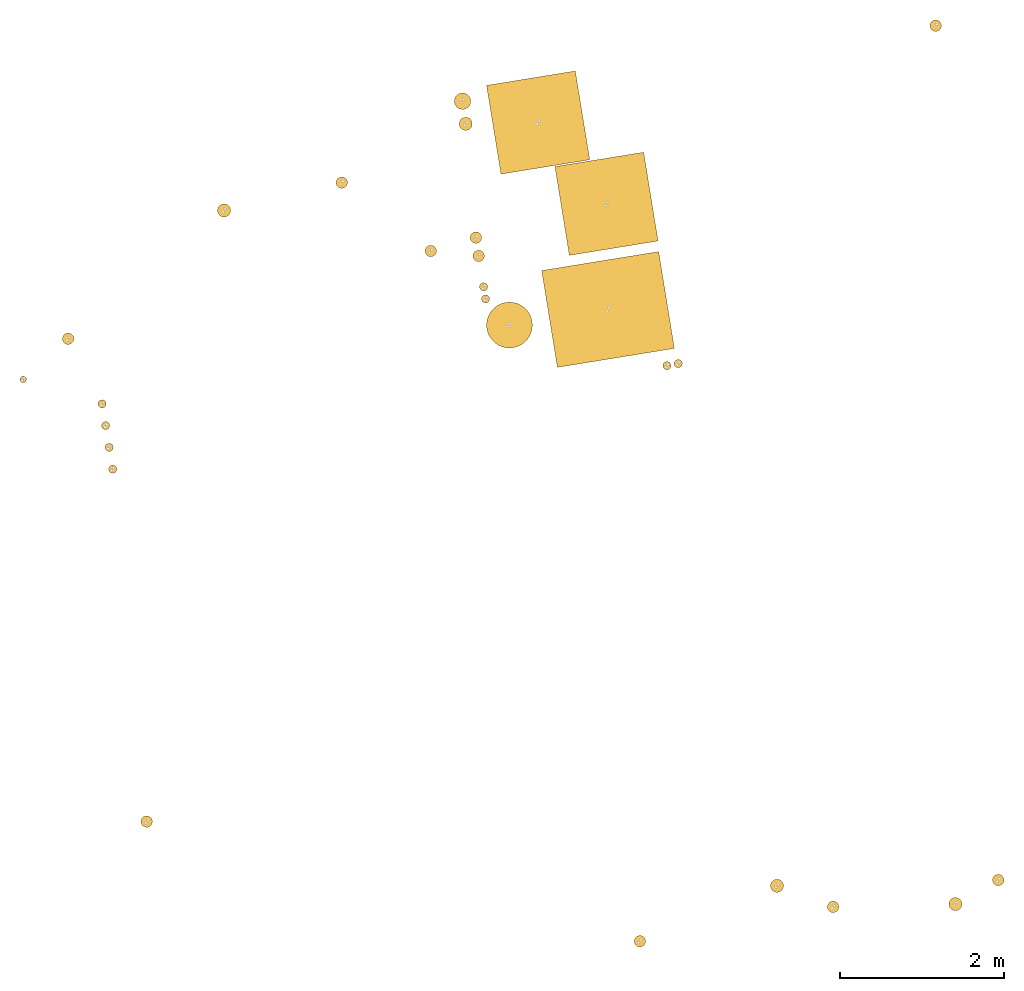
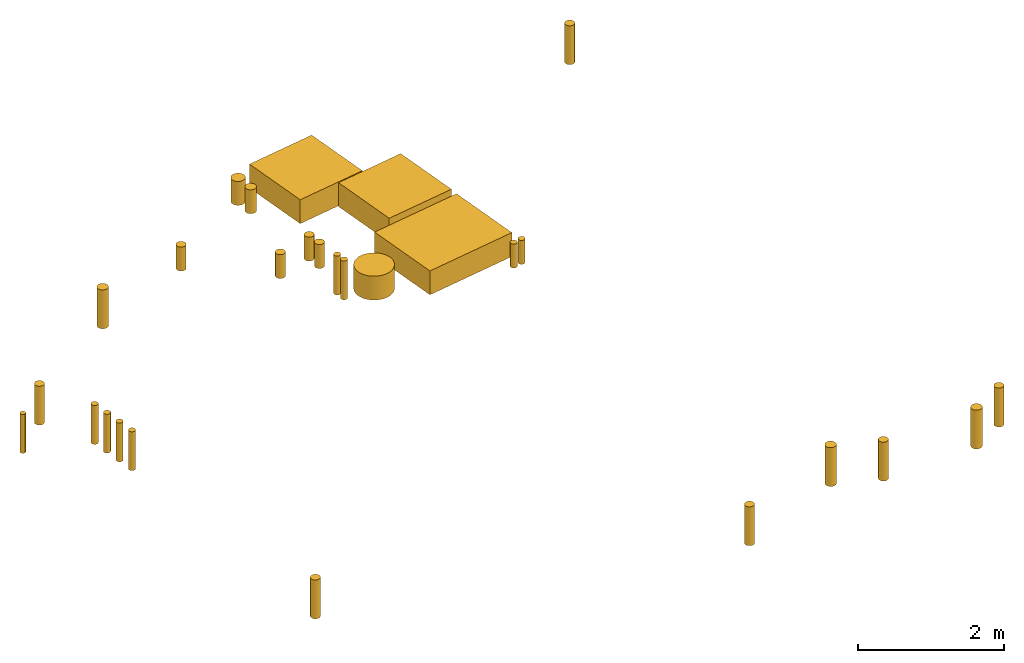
# One storey, part 4 of 4: 28 windows.
"""IFC2X3 building model written with IfcOpenShell, lengths in millimetres."""

from ifc_helpers import new_model, entity, si_unit, converted_unit, derived_unit, direction, frame, frame_2d, origin, origin_with_axes, origin_2d_with_axis, place, context, subcontext, project, spatial, rectangle, circle, extrude, source, transform, mapped, material, type_object, element, save


model = new_model("IFC2X3")

# Units and contexts
model_context = context("Model", 3, precision=0.01, world=origin(), true_north=direction((6.12323399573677e-17, 1.0)))
plan_context = context("Plan", 3, precision=1e-05, world=origin_with_axes())
body_context = subcontext(model_context, "Body", "Model", "MODEL_VIEW")
ifc_project = project(units=[converted_unit("PLANEANGLEUNIT", "DEGREE", entity("IfcPositiveLengthMeasure", 0.0174532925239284), si_unit("PLANEANGLEUNIT", "RADIAN"), dimensions=[0, 0, 0, 0, 0, 0, 0]), si_unit("AREAUNIT", "SQUARE_METRE"), si_unit("LENGTHUNIT", "METRE", prefix="MILLI"), si_unit("MASSUNIT", "GRAM", prefix="KILO"), si_unit("POWERUNIT", "WATT"), si_unit("PRESSUREUNIT", "PASCAL", prefix="KILO"), si_unit("FORCEUNIT", "NEWTON", prefix="KILO"), si_unit("ELECTRICVOLTAGEUNIT", "VOLT"), si_unit("ELECTRICCURRENTUNIT", "AMPERE"), si_unit("THERMODYNAMICTEMPERATUREUNIT", "DEGREE_CELSIUS"), si_unit("TIMEUNIT", "SECOND"), si_unit("VOLUMEUNIT", "CUBIC_METRE"), derived_unit("LINEARVELOCITYUNIT", [(si_unit("LENGTHUNIT", "METRE"), 1), (si_unit("TIMEUNIT", "SECOND"), -1)]), derived_unit("VOLUMETRICFLOWRATEUNIT", [(si_unit("VOLUMEUNIT", "CUBIC_METRE"), 1), (si_unit("TIMEUNIT", "SECOND"), -1)]), derived_unit("THERMALTRANSMITTANCEUNIT", [(si_unit("POWERUNIT", "WATT"), 1), (si_unit("THERMODYNAMICTEMPERATUREUNIT", "KELVIN"), -1), (si_unit("AREAUNIT", "SQUARE_METRE"), -1)]), derived_unit("SOUNDPRESSUREUNIT", [(si_unit("PRESSUREUNIT", "PASCAL"), 1)])], contexts=[model_context, plan_context])

# Site, building, storey
site_placement = place(None, frame((-0.00071070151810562, 0.00438415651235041, 0.0), z_axis=(0.0, 0.0, 1.0), x_axis=(-0.160236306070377, 0.987078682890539, 0.0)))
site = spatial("IfcSite", under=ifc_project, at=site_placement, Name="Default", CompositionType="ELEMENT")
building_placement = place(site_placement, origin_with_axes())
building = spatial("IfcBuilding", under=site, at=building_placement, CompositionType="ELEMENT")
storey_placement = place(building_placement, frame((0.0, 0.0, 50999.9999999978), z_axis=(0.0, 0.0, 1.0), x_axis=(1.0, 0.0, 0.0)))
storey = spatial("IfcBuildingStorey", under=building, at=storey_placement, Name="Nivå D", CompositionType="ELEMENT", Elevation=50999.9999999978)

# Windows
ifc_material = material(Name="Utsparing")
window_style_1 = type_object("IfcWindowStyle", Name="Hullboring Sirkulær:V", ConstructionType="NOTDEFINED", OperationType="NOTDEFINED", ParameterTakesPrecedence=False, Sizeable=False, material=ifc_material)
shared_shape_1 = source(origin(), body_context, "Body", "SweptSolid", [
    extrude(circle(Radius=80.0, at=frame_2d((0.0, -1.29243565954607e-13), x_axis=(1.0, 0.0))), frame((0.0, 0.0, 0.0), z_axis=(0.0, 0.0, 1.0), x_axis=(-1.0, 0.0, 0.0)), (0.0, 0.0, 1.0), 399.999999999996),
])
window_1_placement = place(storey_placement, frame((779143.959611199, -594779.187793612, -400.0), z_axis=(0.0, 0.0, 1.0), x_axis=(1.0, 0.0, 0.0)))
element("IfcWindow", 1, at=window_1_placement, inside=storey, type_object=window_style_1, material=ifc_material, Name="Hullboring Sirkulær:V", ObjectType="Hullboring Sirkulær:V", OverallHeight=200.000000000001, OverallWidth=160.000000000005, context=body_context, shape_type="MappedRepresentation", body=[
    mapped(shared_shape_1, transform((0.0, 0.0, 0.0), scale=1.0)),
])
window_style_2 = type_object("IfcWindowStyle", Name="Utsparing Rektangulær:V", ConstructionType="NOTDEFINED", OperationType="NOTDEFINED", ParameterTakesPrecedence=False, Sizeable=False, material=ifc_material)
shared_shape_2 = source(origin(), body_context, "Body", "SweptSolid", [
    extrude(rectangle(XDim=1100.0, YDim=1100.0, at=origin_2d_with_axis()), frame((0.0, 0.0, 0.0), z_axis=(0.0, 0.0, 1.0), x_axis=(-1.0, 0.0, 0.0)), (0.0, 0.0, 1.0), 399.999999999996),
])
window_2_placement = place(storey_placement, frame((777903.00966992, -596321.533015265, -400.0), z_axis=(0.0, 0.0, 1.0), x_axis=(1.0, 0.0, 0.0)))
element("IfcWindow", 2, at=window_2_placement, inside=storey, type_object=window_style_2, material=ifc_material, Name="Utsparing Rektangulær:V", ObjectType="Utsparing Rektangulær:V", OverallHeight=1200.0, OverallWidth=1200.0, context=body_context, shape_type="MappedRepresentation", body=[
    mapped(shared_shape_2, transform((0.0, 0.0, 0.0), scale=1.0)),
])
window_style_3 = type_object("IfcWindowStyle", Name="Utsparing Rektangulær:V", ConstructionType="NOTDEFINED", OperationType="NOTDEFINED", ParameterTakesPrecedence=False, Sizeable=False, material=ifc_material)
window_3_placement = place(storey_placement, frame((779017.739633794, -595655.667976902, -400.0), z_axis=(0.0, 0.0, 1.0), x_axis=(1.0, 0.0, 0.0)))
element("IfcWindow", 3, at=window_3_placement, inside=storey, type_object=window_style_3, material=ifc_material, Name="Utsparing Rektangulær:V", ObjectType="Utsparing Rektangulær:V", OverallHeight=1200.0, OverallWidth=1200.0, context=body_context, shape_type="MappedRepresentation", body=[
    mapped(shared_shape_2, transform((0.0, 0.0, 0.0), scale=1.0)),
])
window_style_4 = type_object("IfcWindowStyle", Name="Hullboring Sirkulær:V", ConstructionType="NOTDEFINED", OperationType="NOTDEFINED", ParameterTakesPrecedence=False, Sizeable=False, material=ifc_material)
shared_shape_3 = source(origin(), body_context, "Body", "SweptSolid", [
    extrude(circle(Radius=50.0, at=frame_2d((0.0, -8.07772287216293e-14), x_axis=(1.0, 0.0))), frame((0.0, 0.0, 0.0), z_axis=(0.0, 0.0, 1.0), x_axis=(-1.0, 0.0, 0.0)), (0.0, 0.0, 1.0), 399.999999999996),
])
window_4_placement = place(storey_placement, frame((775831.085841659, -596733.758663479, -400.0), z_axis=(0.0, 0.0, 1.0), x_axis=(1.0, 0.0, 0.0)))
element("IfcWindow", 4, at=window_4_placement, inside=storey, type_object=window_style_4, material=ifc_material, Name="Hullboring Sirkulær:V", ObjectType="Hullboring Sirkulær:V", OverallHeight=200.000000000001, OverallWidth=100.000000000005, context=body_context, shape_type="MappedRepresentation", body=[
    mapped(shared_shape_3, transform((0.0, 0.0, 0.0), scale=1.0)),
])
window_style_5 = type_object("IfcWindowStyle", Name="Hullboring Sirkulær:V", ConstructionType="NOTDEFINED", OperationType="NOTDEFINED", ParameterTakesPrecedence=False, Sizeable=False, material=ifc_material)
window_5_placement = place(storey_placement, frame((775833.799335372, -596873.866409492, -400.0), z_axis=(0.0, 0.0, 1.0), x_axis=(1.0, 0.0, 0.0)))
element("IfcWindow", 5, at=window_5_placement, inside=storey, type_object=window_style_5, material=ifc_material, Name="Hullboring Sirkulær:V", ObjectType="Hullboring Sirkulær:V", OverallHeight=200.000000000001, OverallWidth=100.000000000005, context=body_context, shape_type="MappedRepresentation", body=[
    mapped(shared_shape_3, transform((0.0, 0.0, 0.0), scale=1.0)),
])
window_style_6 = type_object("IfcWindowStyle", Name="Hullboring Sirkulær:V", ConstructionType="NOTDEFINED", OperationType="NOTDEFINED", ParameterTakesPrecedence=False, Sizeable=False, material=ifc_material)
shared_shape_4 = source(origin(), body_context, "Body", "SweptSolid", [
    extrude(circle(Radius=70.0, at=frame_2d((0.0, -1.13088120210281e-13), x_axis=(1.0, 0.0))), frame((0.0, 0.0, 0.0), z_axis=(0.0, 0.0, 1.0), x_axis=(-1.0, 0.0, 0.0)), (0.0, 0.0, 1.0), 399.999999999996),
])
window_6_placement = place(storey_placement, frame((777524.586788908, -594676.080003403, -400.0), z_axis=(0.0, 0.0, 1.0), x_axis=(1.0, 0.0, 0.0)))
element("IfcWindow", 6, at=window_6_placement, inside=storey, type_object=window_style_6, material=ifc_material, Name="Hullboring Sirkulær:V", ObjectType="Hullboring Sirkulær:V", OverallHeight=200.000000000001, OverallWidth=140.000000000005, context=body_context, shape_type="MappedRepresentation", body=[
    mapped(shared_shape_4, transform((0.0, 0.0, 0.0), scale=1.0)),
])
window_style_7 = type_object("IfcWindowStyle", Name="Hullboring Sirkulær:V", ConstructionType="NOTDEFINED", OperationType="NOTDEFINED", ParameterTakesPrecedence=False, Sizeable=False, material=ifc_material)
window_7_placement = place(storey_placement, frame((777750.860958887, -594678.826649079, -400.0), z_axis=(0.0, 0.0, 1.0), x_axis=(1.0, 0.0, 0.0)))
element("IfcWindow", 7, at=window_7_placement, inside=storey, type_object=window_style_7, material=ifc_material, Name="Hullboring Sirkulær:V", ObjectType="Hullboring Sirkulær:V", OverallHeight=200.000000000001, OverallWidth=140.000000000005, context=body_context, shape_type="MappedRepresentation", body=[
    mapped(shared_shape_4, transform((0.0, 0.0, 0.0), scale=1.0)),
])
window_style_8 = type_object("IfcWindowStyle", Name="Hullboring Sirkulær:V", ConstructionType="NOTDEFINED", OperationType="NOTDEFINED", ParameterTakesPrecedence=False, Sizeable=False, material=ifc_material)
window_8_placement = place(storey_placement, frame((778677.619644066, -593167.980498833, -400.0), z_axis=(0.0, 0.0, 1.0), x_axis=(1.0, 0.0, 0.0)))
element("IfcWindow", 8, at=window_8_placement, inside=storey, type_object=window_style_8, material=ifc_material, Name="Hullboring Sirkulær:V", ObjectType="Hullboring Sirkulær:V", OverallHeight=200.000000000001, OverallWidth=140.000000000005, context=body_context, shape_type="MappedRepresentation", body=[
    mapped(shared_shape_4, transform((0.0, 0.0, 0.0), scale=1.0)),
])
window_style_9 = type_object("IfcWindowStyle", Name="Hullboring Sirkulær:V", ConstructionType="NOTDEFINED", OperationType="NOTDEFINED", ParameterTakesPrecedence=False, Sizeable=False, material=ifc_material)
window_9_placement = place(storey_placement, frame((777677.619644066, -594107.980498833, -400.0), z_axis=(0.0, 0.0, 1.0), x_axis=(1.0, 0.0, 0.0)))
element("IfcWindow", 9, at=window_9_placement, inside=storey, type_object=window_style_9, material=ifc_material, Name="Hullboring Sirkulær:V", ObjectType="Hullboring Sirkulær:V", OverallHeight=200.000000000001, OverallWidth=140.000000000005, context=body_context, shape_type="MappedRepresentation", body=[
    mapped(shared_shape_4, transform((0.0, 0.0, 0.0), scale=1.0)),
])
window_style_10 = type_object("IfcWindowStyle", Name="Hullboring Sirkulær:V", ConstructionType="NOTDEFINED", OperationType="NOTDEFINED", ParameterTakesPrecedence=False, Sizeable=False, material=ifc_material)
shared_shape_5 = source(origin(), body_context, "Body", "SweptSolid", [
    extrude(circle(Radius=100.0, at=frame_2d((0.0, -1.61554457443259e-13), x_axis=(1.0, 0.0))), frame((0.0, 0.0, 0.0), z_axis=(0.0, 0.0, 1.0), x_axis=(-1.0, 0.0, 0.0)), (0.0, 0.0, 1.0), 399.999999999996),
])
window_10_placement = place(storey_placement, frame((779423.897507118, -594785.084778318, -400.0), z_axis=(0.0, 0.0, 1.0), x_axis=(1.0, 0.0, 0.0)))
element("IfcWindow", 10, at=window_10_placement, inside=storey, type_object=window_style_10, material=ifc_material, Name="Hullboring Sirkulær:V", ObjectType="Hullboring Sirkulær:V", OverallHeight=200.000000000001, OverallWidth=200.000000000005, context=body_context, shape_type="MappedRepresentation", body=[
    mapped(shared_shape_5, transform((0.0, 0.0, 0.0), scale=1.0)),
])
window_style_11 = type_object("IfcWindowStyle", Name="Utsparing Sirkulær:V", ConstructionType="NOTDEFINED", OperationType="NOTDEFINED", ParameterTakesPrecedence=False, Sizeable=False, material=ifc_material)
shared_shape_6 = source(origin(), body_context, "Body", "SweptSolid", [
    extrude(circle(Radius=280.0, at=frame_2d((0.0, -4.52352480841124e-13), x_axis=(1.0, 0.0))), frame((0.0, 0.0, 0.0), z_axis=(0.0, 0.0, 1.0), x_axis=(-1.0, 0.0, 0.0)), (0.0, 0.0, 1.0), 399.999999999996),
])
window_11_placement = place(storey_placement, frame((776629.566038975, -594912.580498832, -400.0), z_axis=(0.0, 0.0, 1.0), x_axis=(1.0, 0.0, 0.0)))
element("IfcWindow", 11, at=window_11_placement, inside=storey, type_object=window_style_11, material=ifc_material, Name="Utsparing Sirkulær:V", ObjectType="Utsparing Sirkulær:V", OverallHeight=560.0, OverallWidth=560.000000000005, context=body_context, shape_type="MappedRepresentation", body=[
    mapped(shared_shape_6, transform((0.0, 0.0, 0.0), scale=1.0)),
])
window_style_12 = type_object("IfcWindowStyle", Name="Utsparing Rektangulær:V", ConstructionType="NOTDEFINED", OperationType="NOTDEFINED", ParameterTakesPrecedence=False, Sizeable=False, material=ifc_material)
shared_shape_7 = source(origin(), body_context, "Body", "SweptSolid", [
    extrude(rectangle(XDim=1200.0, YDim=1450.0, at=origin_2d_with_axis()), frame((0.0, 0.0, 0.0), z_axis=(0.0, 0.0, 1.0), x_axis=(-1.0, 0.0, 0.0)), (0.0, 0.0, 1.0), 399.999999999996),
])
window_12_placement = place(storey_placement, frame((776624.566038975, -596132.983765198, -400.0), z_axis=(0.0, 0.0, 1.0), x_axis=(1.0, 0.0, 0.0)))
element("IfcWindow", 12, at=window_12_placement, inside=storey, type_object=window_style_12, material=ifc_material, Name="Utsparing Rektangulær:V", ObjectType="Utsparing Rektangulær:V", OverallHeight=1550.0, OverallWidth=1300.0, context=body_context, shape_type="MappedRepresentation", body=[
    mapped(shared_shape_7, transform((0.0, 0.0, 0.0), scale=1.0)),
])
window_style_13 = type_object("IfcWindowStyle", Name="Hullboring Sirkulær:V", ConstructionType="NOTDEFINED", OperationType="NOTDEFINED", ParameterTakesPrecedence=False, Sizeable=False, material=ifc_material)
shared_shape_8 = source(origin(), body_context, "Body", "SweptSolid", [
    extrude(circle(Radius=50.0, at=frame_2d((0.0, -8.07772287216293e-14), x_axis=(1.0, 0.0))), frame((0.0, 0.0, 0.0), z_axis=(0.0, 0.0, 1.0), x_axis=(-1.0, 0.0, 0.0)), (0.0, 0.0, 1.0), 649.999999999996),
])
window_13_placement = place(storey_placement, frame((775667.342676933, -589841.757061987, -650.0), z_axis=(0.0, 0.0, 1.0), x_axis=(1.0, 0.0, 0.0)))
element("IfcWindow", 13, at=window_13_placement, inside=storey, type_object=window_style_13, material=ifc_material, Name="Hullboring Sirkulær:V", ObjectType="Hullboring Sirkulær:V", OverallHeight=200.000000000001, OverallWidth=100.000000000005, context=body_context, shape_type="MappedRepresentation", body=[
    mapped(shared_shape_8, transform((0.0, 0.0, 0.0), scale=1.0)),
])
window_style_14 = type_object("IfcWindowStyle", Name="Hullboring Sirkulær:V", ConstructionType="NOTDEFINED", OperationType="NOTDEFINED", ParameterTakesPrecedence=False, Sizeable=False, material=ifc_material)
window_14_placement = place(storey_placement, frame((775937.342676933, -589841.757061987, -650.0), z_axis=(0.0, 0.0, 1.0), x_axis=(1.0, 0.0, 0.0)))
element("IfcWindow", 14, at=window_14_placement, inside=storey, type_object=window_style_14, material=ifc_material, Name="Hullboring Sirkulær:V", ObjectType="Hullboring Sirkulær:V", OverallHeight=200.000000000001, OverallWidth=100.000000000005, context=body_context, shape_type="MappedRepresentation", body=[
    mapped(shared_shape_8, transform((0.0, 0.0, 0.0), scale=1.0)),
])
window_style_15 = type_object("IfcWindowStyle", Name="Hullboring Sirkulær:V", ConstructionType="NOTDEFINED", OperationType="NOTDEFINED", ParameterTakesPrecedence=False, Sizeable=False, material=ifc_material)
window_15_placement = place(storey_placement, frame((776207.342676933, -589841.757061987, -650.0), z_axis=(0.0, 0.0, 1.0), x_axis=(1.0, 0.0, 0.0)))
element("IfcWindow", 15, at=window_15_placement, inside=storey, type_object=window_style_15, material=ifc_material, Name="Hullboring Sirkulær:V", ObjectType="Hullboring Sirkulær:V", OverallHeight=200.000000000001, OverallWidth=100.000000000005, context=body_context, shape_type="MappedRepresentation", body=[
    mapped(shared_shape_8, transform((0.0, 0.0, 0.0), scale=1.0)),
])
window_style_16 = type_object("IfcWindowStyle", Name="Hullboring Sirkulær:V", ConstructionType="NOTDEFINED", OperationType="NOTDEFINED", ParameterTakesPrecedence=False, Sizeable=False, material=ifc_material)
window_16_placement = place(storey_placement, frame((776477.342676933, -589841.757061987, -650.0), z_axis=(0.0, 0.0, 1.0), x_axis=(1.0, 0.0, 0.0)))
element("IfcWindow", 16, at=window_16_placement, inside=storey, type_object=window_style_16, material=ifc_material, Name="Hullboring Sirkulær:V", ObjectType="Hullboring Sirkulær:V", OverallHeight=200.000000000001, OverallWidth=100.000000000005, context=body_context, shape_type="MappedRepresentation", body=[
    mapped(shared_shape_8, transform((0.0, 0.0, 0.0), scale=1.0)),
])
window_style_17 = type_object("IfcWindowStyle", Name="Hullboring Sirkulær:V", ConstructionType="NOTDEFINED", OperationType="NOTDEFINED", ParameterTakesPrecedence=False, Sizeable=False, material=ifc_material)
window_17_placement = place(storey_placement, frame((777142.266874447, -594676.106302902, -650.0), z_axis=(0.0, 0.0, 1.0), x_axis=(1.0, 0.0, 0.0)))
element("IfcWindow", 17, at=window_17_placement, inside=storey, type_object=window_style_17, material=ifc_material, Name="Hullboring Sirkulær:V", ObjectType="Hullboring Sirkulær:V", OverallHeight=200.000000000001, OverallWidth=100.000000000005, context=body_context, shape_type="MappedRepresentation", body=[
    mapped(shared_shape_8, transform((0.0, 0.0, 0.0), scale=1.0)),
])
window_style_18 = type_object("IfcWindowStyle", Name="Hullboring Sirkulær:V", ConstructionType="NOTDEFINED", OperationType="NOTDEFINED", ParameterTakesPrecedence=False, Sizeable=False, material=ifc_material)
window_18_placement = place(storey_placement, frame((776992.266874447, -594676.106302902, -650.0), z_axis=(0.0, 0.0, 1.0), x_axis=(1.0, 0.0, 0.0)))
element("IfcWindow", 18, at=window_18_placement, inside=storey, type_object=window_style_18, material=ifc_material, Name="Hullboring Sirkulær:V", ObjectType="Hullboring Sirkulær:V", OverallHeight=200.000000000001, OverallWidth=100.000000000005, context=body_context, shape_type="MappedRepresentation", body=[
    mapped(shared_shape_8, transform((0.0, 0.0, 0.0), scale=1.0)),
])
window_style_19 = type_object("IfcWindowStyle", Name="Hullboring Sirkulær:V", ConstructionType="NOTDEFINED", OperationType="NOTDEFINED", ParameterTakesPrecedence=False, Sizeable=False, material=ifc_material)
shared_shape_9 = source(origin(), body_context, "Body", "SweptSolid", [
    extrude(circle(Radius=40.0, at=frame_2d((0.0, -6.46217829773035e-14), x_axis=(1.0, 0.0))), frame((0.0, 0.0, 0.0), z_axis=(0.0, 0.0, 1.0), x_axis=(-1.0, 0.0, 0.0)), (0.0, 0.0, 1.0), 649.999999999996),
])
window_19_placement = place(storey_placement, frame((776926.619644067, -588937.941515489, -650.0), z_axis=(0.0, 0.0, 1.0), x_axis=(1.0, 0.0, 0.0)))
element("IfcWindow", 19, at=window_19_placement, inside=storey, type_object=window_style_19, material=ifc_material, Name="Hullboring Sirkulær:V", ObjectType="Hullboring Sirkulær:V", OverallHeight=200.000000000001, OverallWidth=100.0, context=body_context, shape_type="MappedRepresentation", body=[
    mapped(shared_shape_9, transform((0.0, 0.0, 0.0), scale=1.0)),
])
window_style_20 = type_object("IfcWindowStyle", Name="Hullboring Sirkulær:V", ConstructionType="NOTDEFINED", OperationType="NOTDEFINED", ParameterTakesPrecedence=False, Sizeable=False, material=ifc_material)
shared_shape_10 = source(origin(), body_context, "Body", "SweptSolid", [
    extrude(circle(Radius=70.0, at=frame_2d((0.0, -1.13088120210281e-13), x_axis=(1.0, 0.0))), frame((0.0, 0.0, 0.0), z_axis=(0.0, 0.0, 1.0), x_axis=(-1.0, 0.0, 0.0)), (0.0, 0.0, 1.0), 649.999999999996),
])
window_20_placement = place(storey_placement, frame((777328.713006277, -589559.15871903, -650.0), z_axis=(0.0, 0.0, 1.0), x_axis=(1.0, 0.0, 0.0)))
element("IfcWindow", 20, at=window_20_placement, inside=storey, type_object=window_style_20, material=ifc_material, Name="Hullboring Sirkulær:V", ObjectType="Hullboring Sirkulær:V", OverallHeight=200.000000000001, OverallWidth=140.000000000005, context=body_context, shape_type="MappedRepresentation", body=[
    mapped(shared_shape_10, transform((0.0, 0.0, 0.0), scale=1.0)),
])
window_style_21 = type_object("IfcWindowStyle", Name="Hullboring Sirkulær:V", ConstructionType="NOTDEFINED", OperationType="NOTDEFINED", ParameterTakesPrecedence=False, Sizeable=False, material=ifc_material)
window_21_placement = place(storey_placement, frame((768972.906472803, -599725.208327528, -650.0), z_axis=(0.0, 0.0, 1.0), x_axis=(1.0, 0.0, 0.0)))
element("IfcWindow", 21, at=window_21_placement, inside=storey, type_object=window_style_21, material=ifc_material, Name="Hullboring Sirkulær:V", ObjectType="Hullboring Sirkulær:V", OverallHeight=200.000000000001, OverallWidth=140.000000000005, context=body_context, shape_type="MappedRepresentation", body=[
    mapped(shared_shape_10, transform((0.0, 0.0, 0.0), scale=1.0)),
])
window_style_22 = type_object("IfcWindowStyle", Name="Hullboring Sirkulær:V", ConstructionType="NOTDEFINED", OperationType="NOTDEFINED", ParameterTakesPrecedence=False, Sizeable=False, material=ifc_material)
window_22_placement = place(storey_placement, frame((768972.906472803, -597679.328148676, -650.0), z_axis=(0.0, 0.0, 1.0), x_axis=(1.0, 0.0, 0.0)))
element("IfcWindow", 22, at=window_22_placement, inside=storey, type_object=window_style_22, material=ifc_material, Name="Hullboring Sirkulær:V", ObjectType="Hullboring Sirkulær:V", OverallHeight=200.000000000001, OverallWidth=140.000000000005, context=body_context, shape_type="MappedRepresentation", body=[
    mapped(shared_shape_10, transform((0.0, 0.0, 0.0), scale=1.0)),
])
window_style_23 = type_object("IfcWindowStyle", Name="Hullboring Sirkulær:V", ConstructionType="NOTDEFINED", OperationType="NOTDEFINED", ParameterTakesPrecedence=False, Sizeable=False, material=ifc_material)
window_23_placement = place(storey_placement, frame((768936.484875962, -595279.604525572, -650.0), z_axis=(0.0, 0.0, 1.0), x_axis=(1.0, 0.0, 0.0)))
element("IfcWindow", 23, at=window_23_placement, inside=storey, type_object=window_style_23, material=ifc_material, Name="Hullboring Sirkulær:V", ObjectType="Hullboring Sirkulær:V", OverallHeight=200.000000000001, OverallWidth=140.000000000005, context=body_context, shape_type="MappedRepresentation", body=[
    mapped(shared_shape_10, transform((0.0, 0.0, 0.0), scale=1.0)),
])
window_style_24 = type_object("IfcWindowStyle", Name="Hullboring Sirkulær:V", ConstructionType="NOTDEFINED", OperationType="NOTDEFINED", ParameterTakesPrecedence=False, Sizeable=False, material=ifc_material)
window_24_placement = place(storey_placement, frame((771347.471919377, -589560.758087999, -650.0), z_axis=(0.0, 0.0, 1.0), x_axis=(1.0, 0.0, 0.0)))
element("IfcWindow", 24, at=window_24_placement, inside=storey, type_object=window_style_24, material=ifc_material, Name="Hullboring Sirkulær:V", ObjectType="Hullboring Sirkulær:V", OverallHeight=200.000000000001, OverallWidth=140.000000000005, context=body_context, shape_type="MappedRepresentation", body=[
    mapped(shared_shape_10, transform((0.0, 0.0, 0.0), scale=1.0)),
])
window_style_25 = type_object("IfcWindowStyle", Name="Hullboring Sirkulær:V", ConstructionType="NOTDEFINED", OperationType="NOTDEFINED", ParameterTakesPrecedence=False, Sizeable=False, material=ifc_material)
window_25_placement = place(storey_placement, frame((779407.560606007, -600643.809150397, -650.0), z_axis=(0.0, 0.0, 1.0), x_axis=(1.0, 0.0, 0.0)))
element("IfcWindow", 25, at=window_25_placement, inside=storey, type_object=window_style_25, material=ifc_material, Name="Hullboring Sirkulær:V", ObjectType="Hullboring Sirkulær:V", OverallHeight=200.000000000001, OverallWidth=140.000000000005, context=body_context, shape_type="MappedRepresentation", body=[
    mapped(shared_shape_10, transform((0.0, 0.0, 0.0), scale=1.0)),
])
window_style_26 = type_object("IfcWindowStyle", Name="Hullboring Sirkulær:V", ConstructionType="NOTDEFINED", OperationType="NOTDEFINED", ParameterTakesPrecedence=False, Sizeable=False, material=ifc_material)
shared_shape_11 = source(origin(), body_context, "Body", "SweptSolid", [
    extrude(circle(Radius=80.0, at=frame_2d((0.0, -1.29243565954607e-13), x_axis=(1.0, 0.0))), frame((0.0, 0.0, 0.0), z_axis=(0.0, 0.0, 1.0), x_axis=(-1.0, 0.0, 0.0)), (0.0, 0.0, 1.0), 649.999999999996),
])
window_26_placement = place(storey_placement, frame((778572.619644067, -591692.709116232, -650.0), z_axis=(0.0, 0.0, 1.0), x_axis=(1.0, 0.0, 0.0)))
element("IfcWindow", 26, at=window_26_placement, inside=storey, type_object=window_style_26, material=ifc_material, Name="Hullboring Sirkulær:V", ObjectType="Hullboring Sirkulær:V", OverallHeight=200.000000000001, OverallWidth=160.000000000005, context=body_context, shape_type="MappedRepresentation", body=[
    mapped(shared_shape_11, transform((0.0, 0.0, 0.0), scale=1.0)),
])
window_style_27 = type_object("IfcWindowStyle", Name="Hullboring Sirkulær:V", ConstructionType="NOTDEFINED", OperationType="NOTDEFINED", ParameterTakesPrecedence=False, Sizeable=False, material=ifc_material)
window_27_placement = place(storey_placement, frame((768767.510779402, -599160.888297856, -650.0), z_axis=(0.0, 0.0, 1.0), x_axis=(1.0, 0.0, 0.0)))
element("IfcWindow", 27, at=window_27_placement, inside=storey, type_object=window_style_27, material=ifc_material, Name="Hullboring Sirkulær:V", ObjectType="Hullboring Sirkulær:V", OverallHeight=200.000000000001, OverallWidth=160.000000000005, context=body_context, shape_type="MappedRepresentation", body=[
    mapped(shared_shape_11, transform((0.0, 0.0, 0.0), scale=1.0)),
])
window_style_28 = type_object("IfcWindowStyle", Name="Hullboring Sirkulær:V", ConstructionType="NOTDEFINED", OperationType="NOTDEFINED", ParameterTakesPrecedence=False, Sizeable=False, material=ifc_material)
window_28_placement = place(storey_placement, frame((769337.415143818, -597043.320122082, -650.0), z_axis=(0.0, 0.0, 1.0), x_axis=(1.0, 0.0, 0.0)))
element("IfcWindow", 28, at=window_28_placement, inside=storey, type_object=window_style_28, material=ifc_material, Name="Hullboring Sirkulær:V", ObjectType="Hullboring Sirkulær:V", OverallHeight=200.000000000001, OverallWidth=160.000000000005, context=body_context, shape_type="MappedRepresentation", body=[
    mapped(shared_shape_11, transform((0.0, 0.0, 0.0), scale=1.0)),
])

save(model, "model.ifc")
